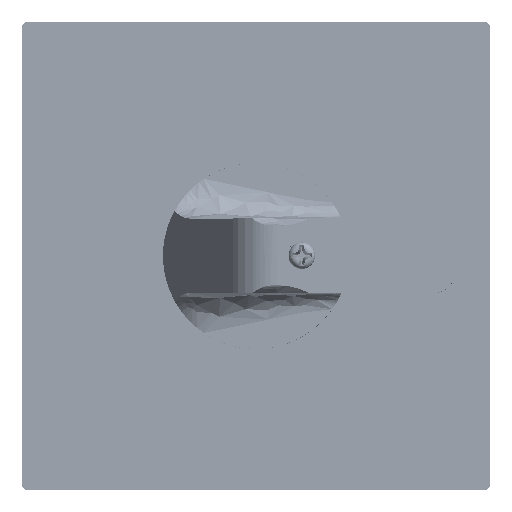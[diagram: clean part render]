
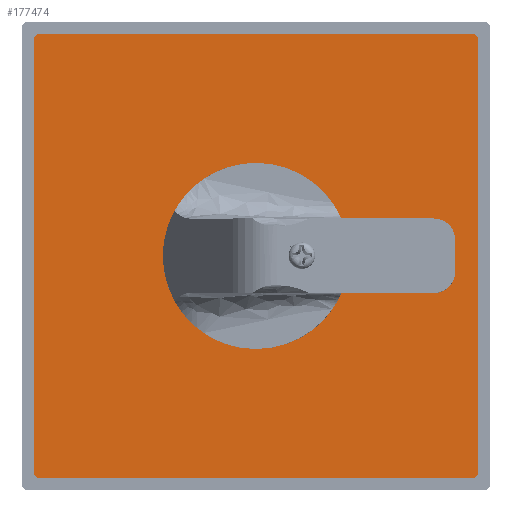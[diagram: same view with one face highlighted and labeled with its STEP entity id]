
A CAD part, top view. The second image highlights one B-rep face of the part: STEP entity #177474.
In plain terms, the highlighted planar face has unit normal (0, 0, 1).
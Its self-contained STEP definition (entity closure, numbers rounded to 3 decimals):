
#519 = AXIS2_PLACEMENT_3D ( 'NONE', #232761, #259222, #306638 ) ;
#4736 = EDGE_CURVE ( 'NONE', #309542, #201540, #249135, .T. ) ;
#6932 = CARTESIAN_POINT ( 'NONE',  ( -40.75, -40.75, 99.125 ) ) ;
#9222 = ORIENTED_EDGE ( 'NONE', *, *, #301523, .T. ) ;
#9562 = CARTESIAN_POINT ( 'NONE',  ( -41.75, 40.75, 99.125 ) ) ;
#9721 = EDGE_CURVE ( 'NONE', #293070, #13745, #123339, .T. ) ;
#13745 = VERTEX_POINT ( 'NONE', #86357 ) ;
#19336 = CIRCLE ( 'NONE', #110679, 1. ) ;
#25994 = ORIENTED_EDGE ( 'NONE', *, *, #210257, .T. ) ;
#26036 = CARTESIAN_POINT ( 'NONE',  ( -40.75, -41.75, 99.125 ) ) ;
#29493 = CARTESIAN_POINT ( 'NONE',  ( 40.75, 41.75, 99.125 ) ) ;
#30705 = FACE_OUTER_BOUND ( 'NONE', #93265, .T. ) ;
#32253 = DIRECTION ( 'NONE',  ( 0., 0., 1. ) ) ;
#33141 = EDGE_CURVE ( 'NONE', #305680, #41843, #116639, .T. ) ;
#38274 = CIRCLE ( 'NONE', #298317, 12.5 ) ;
#41843 = VERTEX_POINT ( 'NONE', #207047 ) ;
#45106 = CARTESIAN_POINT ( 'NONE',  ( 41.75, 40.75, 99.125 ) ) ;
#46710 = AXIS2_PLACEMENT_3D ( 'NONE', #70843, #294827, #218726 ) ;
#53561 = AXIS2_PLACEMENT_3D ( 'NONE', #138043, #285929, #261640 ) ;
#55464 = CIRCLE ( 'NONE', #53561, 12.5 ) ;
#56204 = VECTOR ( 'NONE', #326390, 1000. ) ;
#70843 = CARTESIAN_POINT ( 'NONE',  ( -40.75, 40.75, 99.125 ) ) ;
#75430 = LINE ( 'NONE', #45106, #189979 ) ;
#86357 = CARTESIAN_POINT ( 'NONE',  ( -41.75, -40.75, 99.125 ) ) ;
#91121 = ORIENTED_EDGE ( 'NONE', *, *, #219948, .T. ) ;
#93265 = EDGE_LOOP ( 'NONE', ( #125764, #255094, #9222, #247527, #91121, #123163, #222025, #25994 ) ) ;
#94184 = CARTESIAN_POINT ( 'NONE',  ( -40.75, 41.75, 99.125 ) ) ;
#95857 = DIRECTION ( 'NONE',  ( 0., 1., 0. ) ) ;
#100452 = EDGE_CURVE ( 'NONE', #207212, #276530, #55464, .T. ) ;
#106122 = CIRCLE ( 'NONE', #46710, 1. ) ;
#108849 = DIRECTION ( 'NONE',  ( 0., 0., 1. ) ) ;
#110679 = AXIS2_PLACEMENT_3D ( 'NONE', #6932, #32253, #208958 ) ;
#113010 = CIRCLE ( 'NONE', #519, 1. ) ;
#116639 = LINE ( 'NONE', #26036, #270471 ) ;
#118976 = VERTEX_POINT ( 'NONE', #326189 ) ;
#123163 = ORIENTED_EDGE ( 'NONE', *, *, #33141, .T. ) ;
#123339 = LINE ( 'NONE', #201720, #56204 ) ;
#124267 = DIRECTION ( 'NONE',  ( -1., 0., 0. ) ) ;
#125764 = ORIENTED_EDGE ( 'NONE', *, *, #199027, .T. ) ;
#126467 = CARTESIAN_POINT ( 'NONE',  ( -40.75, 41.75, 99.125 ) ) ;
#133597 = PLANE ( 'NONE',  #229287 ) ;
#136866 = DIRECTION ( 'NONE',  ( 0., 0., 1. ) ) ;
#138043 = CARTESIAN_POINT ( 'NONE',  ( 0., 0., 99.125 ) ) ;
#140014 = CARTESIAN_POINT ( 'NONE',  ( -12.5, 0., 99.125 ) ) ;
#140489 = AXIS2_PLACEMENT_3D ( 'NONE', #291656, #292750, #319199 ) ;
#153121 = CIRCLE ( 'NONE', #140489, 1. ) ;
#155430 = CARTESIAN_POINT ( 'NONE',  ( -40.75, -41.75, 99.125 ) ) ;
#162222 = DIRECTION ( 'NONE',  ( 1., 0., 0. ) ) ;
#177474 = ADVANCED_FACE ( 'NONE', ( #30705, #197350 ), #133597, .T. ) ;
#189979 = VECTOR ( 'NONE', #95857, 1000. ) ;
#197350 = FACE_BOUND ( 'NONE', #318079, .T. ) ;
#199027 = EDGE_CURVE ( 'NONE', #118976, #309542, #113010, .T. ) ;
#200617 = CARTESIAN_POINT ( 'NONE',  ( 41.75, -40.75, 99.125 ) ) ;
#201540 = VERTEX_POINT ( 'NONE', #94184 ) ;
#201720 = CARTESIAN_POINT ( 'NONE',  ( -41.75, 40.75, 99.125 ) ) ;
#204874 = DIRECTION ( 'NONE',  ( 1., 0., 0. ) ) ;
#207047 = CARTESIAN_POINT ( 'NONE',  ( 40.75, -41.75, 99.125 ) ) ;
#207212 = VERTEX_POINT ( 'NONE', #290816 ) ;
#208958 = DIRECTION ( 'NONE',  ( -1., 0., 0. ) ) ;
#210257 = EDGE_CURVE ( 'NONE', #263449, #118976, #75430, .T. ) ;
#218726 = DIRECTION ( 'NONE',  ( -1., 0., 0. ) ) ;
#219948 = EDGE_CURVE ( 'NONE', #13745, #305680, #19336, .T. ) ;
#222025 = ORIENTED_EDGE ( 'NONE', *, *, #304294, .T. ) ;
#229287 = AXIS2_PLACEMENT_3D ( 'NONE', #311165, #136866, #162222 ) ;
#232761 = CARTESIAN_POINT ( 'NONE',  ( 40.75, 40.75, 99.125 ) ) ;
#234651 = CARTESIAN_POINT ( 'NONE',  ( 0., 0., 99.125 ) ) ;
#247527 = ORIENTED_EDGE ( 'NONE', *, *, #9721, .T. ) ;
#249135 = LINE ( 'NONE', #126467, #276715 ) ;
#255094 = ORIENTED_EDGE ( 'NONE', *, *, #4736, .T. ) ;
#259222 = DIRECTION ( 'NONE',  ( 0., 0., 1. ) ) ;
#260021 = DIRECTION ( 'NONE',  ( 1., 0., 0. ) ) ;
#261640 = DIRECTION ( 'NONE',  ( 1., 0., 0. ) ) ;
#263449 = VERTEX_POINT ( 'NONE', #200617 ) ;
#270471 = VECTOR ( 'NONE', #204874, 1000. ) ;
#276530 = VERTEX_POINT ( 'NONE', #140014 ) ;
#276715 = VECTOR ( 'NONE', #124267, 1000. ) ;
#282583 = ORIENTED_EDGE ( 'NONE', *, *, #100452, .F. ) ;
#285929 = DIRECTION ( 'NONE',  ( 0., 0., 1. ) ) ;
#290816 = CARTESIAN_POINT ( 'NONE',  ( 12.5, 0., 99.125 ) ) ;
#291656 = CARTESIAN_POINT ( 'NONE',  ( 40.75, -40.75, 99.125 ) ) ;
#292750 = DIRECTION ( 'NONE',  ( 0., 0., 1. ) ) ;
#293070 = VERTEX_POINT ( 'NONE', #9562 ) ;
#294827 = DIRECTION ( 'NONE',  ( 0., 0., 1. ) ) ;
#298317 = AXIS2_PLACEMENT_3D ( 'NONE', #234651, #108849, #260021 ) ;
#301523 = EDGE_CURVE ( 'NONE', #201540, #293070, #106122, .T. ) ;
#304294 = EDGE_CURVE ( 'NONE', #41843, #263449, #153121, .T. ) ;
#305493 = ORIENTED_EDGE ( 'NONE', *, *, #321901, .F. ) ;
#305680 = VERTEX_POINT ( 'NONE', #155430 ) ;
#306638 = DIRECTION ( 'NONE',  ( 1., 0., 0. ) ) ;
#309542 = VERTEX_POINT ( 'NONE', #29493 ) ;
#311165 = CARTESIAN_POINT ( 'NONE',  ( 40.75, 40.75, 99.125 ) ) ;
#318079 = EDGE_LOOP ( 'NONE', ( #305493, #282583 ) ) ;
#319199 = DIRECTION ( 'NONE',  ( -1., 0., 0. ) ) ;
#321901 = EDGE_CURVE ( 'NONE', #276530, #207212, #38274, .T. ) ;
#326189 = CARTESIAN_POINT ( 'NONE',  ( 41.75, 40.75, 99.125 ) ) ;
#326390 = DIRECTION ( 'NONE',  ( 0., -1., 0. ) ) ;
